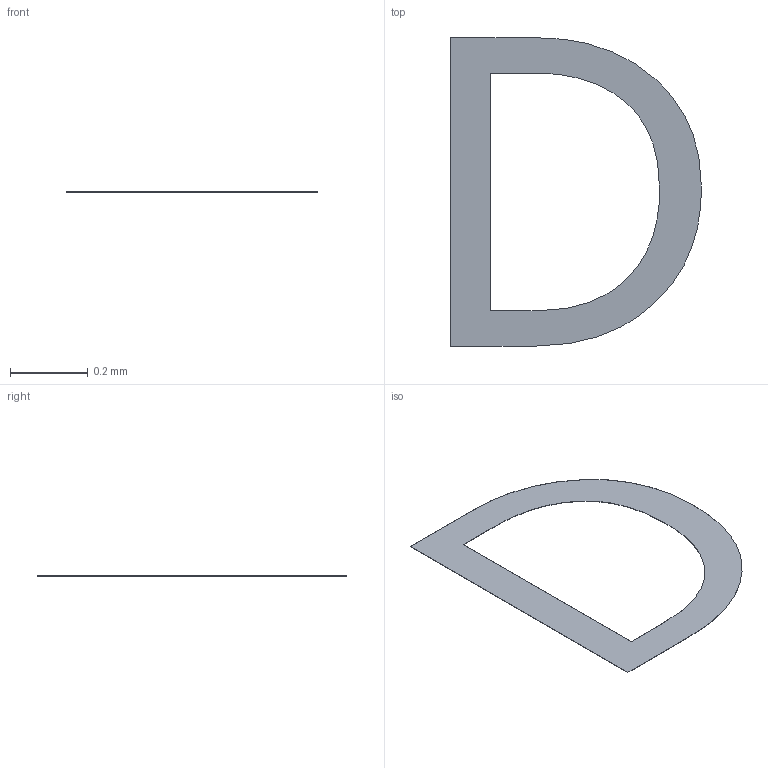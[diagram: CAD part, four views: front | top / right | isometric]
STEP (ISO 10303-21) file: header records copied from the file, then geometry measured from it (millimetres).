
FILE_DESCRIPTION(/* description */ ('STEP AP242 Edition 2','CAx-IF Rec.Pracs.---Representation and Presentation of Product Manufacturing Information (PMI)---4.0---2014-10-13','CAx-IF Rec.Pracs.---3D Tessellated Geometry---0.4---2014-09-14','2;1','CAx-IF Rec.Pracs.---User Defined Attributes---1.5---2016-08-15'),/* implementation_level */ '2;1');
FILE_NAME(/* name */ 'Assembly 1 - I2CLCD16X2~MODULE-TH_LCM1602K~nxQB (4)',/* time_stamp */ '2026-04-02T09:55:14Z',/* author */ (''),/* organization */ (''),/* preprocessor_version */ 'ST-DEVELOPER v20',/* originating_system */ 'ONSHAPE BY PTC INC, 1.212',/* authorisation */ ' ');
FILE_SCHEMA (('AP242_MANAGED_MODEL_BASED_3D_ENGINEERING_MIM_LF { 1 0 10303 442 3 1 4 }'));
Length unit declared in the file: metre
Products named in the file (1): I2CLCD16X2~MODULE-TH_LCM1602K~nxQB
Bounding box: 0.65 x 0.79 x 0 mm (x, y, z)
Volume: 0 mm3; surface area: 0.4 mm2
Topology: 1 solids, 1 shells, 16 faces, 42 edges, 28 vertices
Faces by surface type: bspline 8, plane 8
Entity records: 673 total; most frequent: CARTESIAN_POINT 191, ORIENTED_EDGE 84, DIRECTION 44, EDGE_CURVE 42, VERTEX_POINT 28, LINE 26, VECTOR 26, EDGE_LOOP 18
